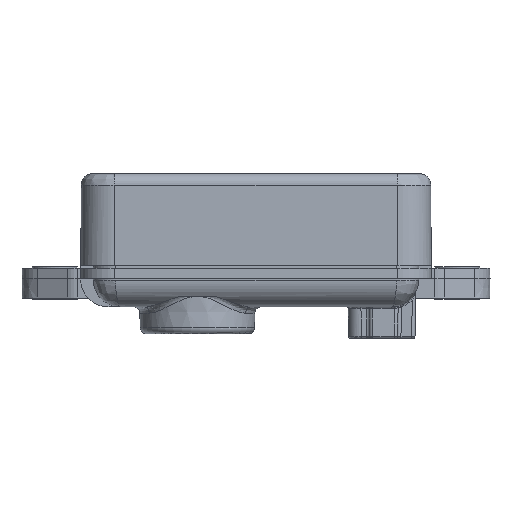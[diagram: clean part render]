
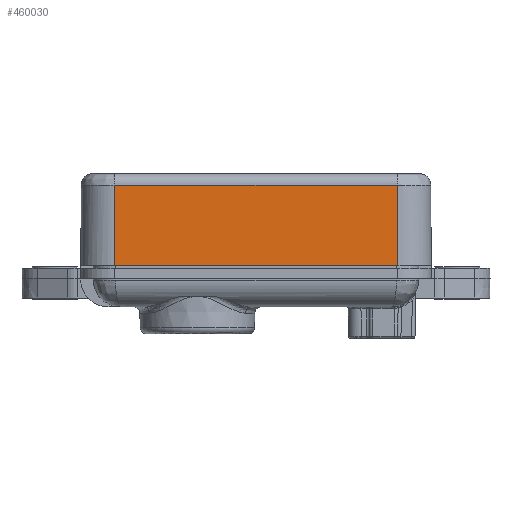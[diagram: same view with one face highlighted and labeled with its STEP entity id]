
A CAD part, front view. The second image highlights one B-rep face of the part: STEP entity #460030.
In plain terms, the highlighted planar face has unit normal (0, -1, 0.009) as drawn and (1, 0, 0.009) by its records, which use the part's own axes.
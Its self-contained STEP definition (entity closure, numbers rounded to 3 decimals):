
#457920=CARTESIAN_POINT('',(67.583,39.738,
3.631));
#457930=VERTEX_POINT('',#457920);
#458220=CARTESIAN_POINT('',(67.631,39.691,
-1.831));
#458230=DIRECTION('',(-0.009,0.009,
1.));
#458240=VECTOR('',#458230,1.);
#458250=LINE('',#458220,#458240);
#458260=CARTESIAN_POINT('',(67.693,39.628,
-8.985));
#458270=VERTEX_POINT('',#458260);
#458280=EDGE_CURVE('',#458270,#457930,#458250,.T.);
#459150=CARTESIAN_POINT('',(67.583,84.21,
3.631));
#459160=VERTEX_POINT('',#459150);
#459680=CARTESIAN_POINT('',(67.693,84.32,
-8.985));
#459690=VERTEX_POINT('',#459680);
#459720=CARTESIAN_POINT('',(67.631,84.257,
-1.831));
#459730=DIRECTION('',(-0.009,-0.009,
1.));
#459740=VECTOR('',#459730,1.);
#459750=LINE('',#459720,#459740);
#459760=EDGE_CURVE('',#459690,#459160,#459750,.T.);
#459820=CARTESIAN_POINT('',(67.698,41.924,
-9.485));
#459830=DIRECTION('',(-1.,0.,
-0.009));
#459840=DIRECTION('',(0.,1.,0.));
#459850=AXIS2_PLACEMENT_3D('',#459820,#459830,#459840);
#459860=PLANE('',#459850);
#459870=CARTESIAN_POINT('',(67.583,41.924,
3.631));
#459880=DIRECTION('',(0.,-1.,0.));
#459890=VECTOR('',#459880,1.);
#459900=LINE('',#459870,#459890);
#459910=EDGE_CURVE('',#459160,#457930,#459900,.T.);
#459920=ORIENTED_EDGE('',*,*,#459910,.T.);
#459930=ORIENTED_EDGE('',*,*,#459760,.T.);
#459940=CARTESIAN_POINT('',(67.693,41.924,
-8.985));
#459950=DIRECTION('',(0.,-1.,0.));
#459960=VECTOR('',#459950,1.);
#459970=LINE('',#459940,#459960);
#459980=EDGE_CURVE('',#459690,#458270,#459970,.T.);
#459990=ORIENTED_EDGE('',*,*,#459980,.F.);
#460000=ORIENTED_EDGE('',*,*,#458280,.F.);
#460010=EDGE_LOOP('',(#460000,#459990,#459930,#459920));
#460020=FACE_OUTER_BOUND('',#460010,.T.);
#460030=ADVANCED_FACE('',(#460020),#459860,.F.);
